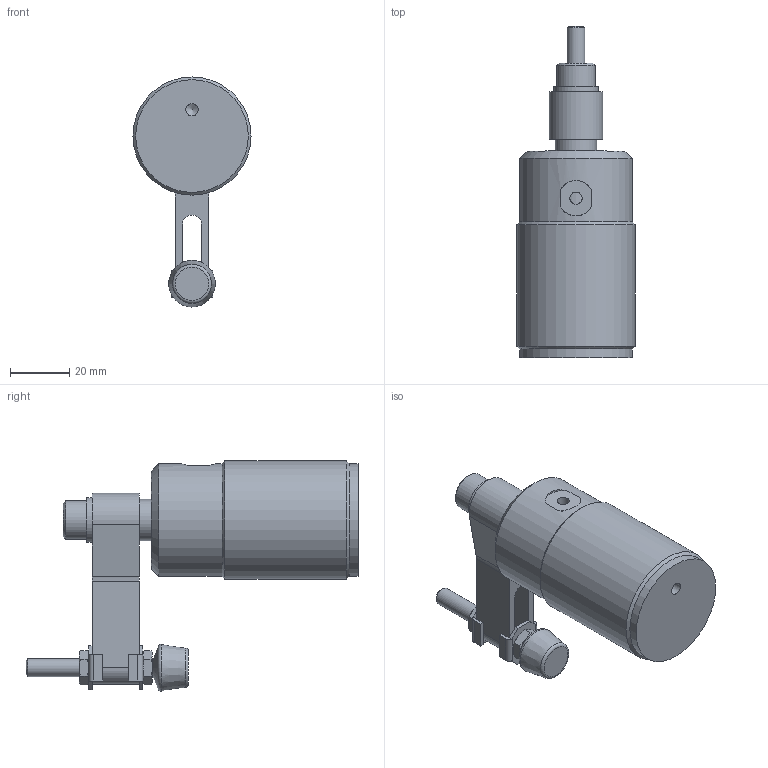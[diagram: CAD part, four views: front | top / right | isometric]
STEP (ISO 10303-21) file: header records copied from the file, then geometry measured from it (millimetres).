
FILE_DESCRIPTION( ( 'STEP AP214' ), '1' );
FILE_NAME( 'p:/temp/worker_281/temp/exporttempdir_5420_1229_AcE0y/format_0/Swing clamp GN 876-25-14-R-AC (closed).stp', '2021-10-07T05:09:45', ( 'License CC BY-ND 4.0' ), ( 'CADENAS' ), ' ', 'PARTsolutions', ' ' );
FILE_SCHEMA( ( 'AUTOMOTIVE_DESIGN { 1 0 10303 214 1 1 1 1 }' ) );
Length unit declared in the file: millimetre
Products named in the file (5): Swing clamp GN 876-25-14-R-AC (closed); _Swing clamp GN 876-25-14-R-AC (1)-1; _Swing clamp GN 876-25-14-R-AC (1)-2; _Swing clamp GN 876-25-14-R-AC (1)-3; _Swing clamp GN 876-25-14-R-AC (1)-4
Assembly tree (5 placements, depth 2):
  Swing clamp GN 876-25-14-R-AC (closed)
    _Swing clamp GN 876-25-14-R-AC (1)-1
    _Swing clamp GN 876-25-14-R-AC (1)-2
    _Swing clamp GN 876-25-14-R-AC (1)-3  x2
    _Swing clamp GN 876-25-14-R-AC (1)-4
Bounding box: 40 x 112.4 x 77.89 mm (x, y, z)
Volume: 91330.4 mm3; surface area: 26807.8 mm2
Topology: 5 solids, 5 shells, 157 faces, 362 edges, 227 vertices
Faces by surface type: plane 91, cone 32, cylinder 32, torus 2
Full cylindrical faces by diameter (mm): 4.134 x2, 4.917 x2, 6 x1, 6.5 x2, 13 x1, 14 x2, 15 x1, 25 x1, 38.16 x2, 40 x1
Entity records: 4030 total; most frequent: CARTESIAN_POINT 718, DIRECTION 496, ORIENTED_EDGE 438, EDGE_CURVE 219, AXIS2_PLACEMENT_3D 189, VERTEX_POINT 153, EDGE_LOOP 148, FACE_OUTER_BOUND 124
